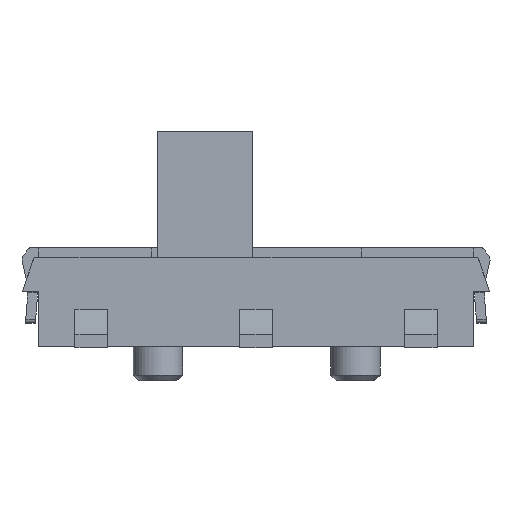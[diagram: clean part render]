
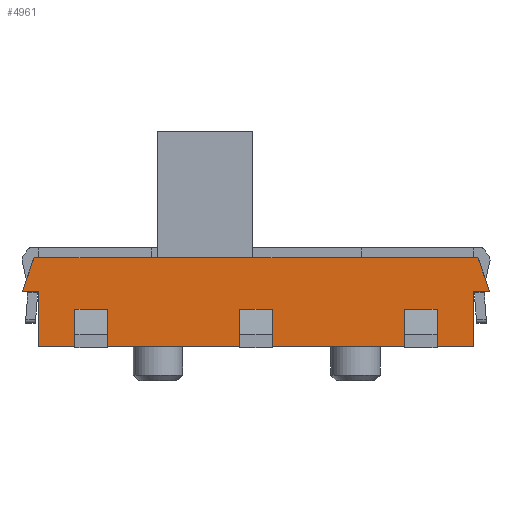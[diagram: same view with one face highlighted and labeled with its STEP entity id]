
A CAD part, front view. The second image highlights one B-rep face of the part: STEP entity #4961.
In plain terms, the highlighted planar face has unit normal (0, -1, 0).
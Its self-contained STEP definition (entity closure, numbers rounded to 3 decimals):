
#954=ORIENTED_EDGE('',*,*,#1284,.F.);
#955=ORIENTED_EDGE('',*,*,#1271,.F.);
#956=ORIENTED_EDGE('',*,*,#1285,.F.);
#957=ORIENTED_EDGE('',*,*,#1269,.T.);
#958=ORIENTED_EDGE('',*,*,#1600,.F.);
#959=ORIENTED_EDGE('',*,*,#1601,.F.);
#960=ORIENTED_EDGE('',*,*,#1602,.T.);
#961=ORIENTED_EDGE('',*,*,#1603,.F.);
#962=ORIENTED_EDGE('',*,*,#1599,.T.);
#963=ORIENTED_EDGE('',*,*,#1166,.T.);
#964=ORIENTED_EDGE('',*,*,#1159,.T.);
#965=ORIENTED_EDGE('',*,*,#1168,.T.);
#966=ORIENTED_EDGE('',*,*,#1598,.T.);
#967=ORIENTED_EDGE('',*,*,#1596,.T.);
#968=ORIENTED_EDGE('',*,*,#1594,.T.);
#969=ORIENTED_EDGE('',*,*,#1591,.T.);
#970=ORIENTED_EDGE('',*,*,#1589,.T.);
#971=ORIENTED_EDGE('',*,*,#1587,.T.);
#972=ORIENTED_EDGE('',*,*,#1585,.T.);
#973=ORIENTED_EDGE('',*,*,#1583,.T.);
#974=ORIENTED_EDGE('',*,*,#1580,.F.);
#975=ORIENTED_EDGE('',*,*,#1579,.T.);
#976=ORIENTED_EDGE('',*,*,#1576,.T.);
#977=ORIENTED_EDGE('',*,*,#1574,.F.);
#1159=EDGE_CURVE('',#1674,#1677,#2013,.T.);
#1166=EDGE_CURVE('',#1684,#1674,#2020,.T.);
#1168=EDGE_CURVE('',#1677,#1685,#2022,.T.);
#1269=EDGE_CURVE('',#1767,#1773,#2115,.T.);
#1271=EDGE_CURVE('',#1775,#1776,#2117,.T.);
#1284=EDGE_CURVE('',#1776,#1773,#2130,.T.);
#1285=EDGE_CURVE('',#1767,#1775,#2131,.T.);
#1574=EDGE_CURVE('',#1958,#1959,#2370,.T.);
#1576=EDGE_CURVE('',#1960,#1959,#2372,.T.);
#1579=EDGE_CURVE('',#1961,#1960,#2375,.T.);
#1580=EDGE_CURVE('',#1961,#1958,#2376,.T.);
#1583=EDGE_CURVE('',#1963,#1962,#2379,.T.);
#1585=EDGE_CURVE('',#1964,#1963,#2381,.T.);
#1587=EDGE_CURVE('',#1965,#1964,#2383,.T.);
#1589=EDGE_CURVE('',#1966,#1965,#2385,.T.);
#1591=EDGE_CURVE('',#1967,#1966,#2387,.T.);
#1594=EDGE_CURVE('',#1968,#1967,#2390,.T.);
#1596=EDGE_CURVE('',#1969,#1968,#2392,.T.);
#1598=EDGE_CURVE('',#1685,#1969,#2394,.T.);
#1599=EDGE_CURVE('',#1962,#1684,#2395,.T.);
#1600=EDGE_CURVE('',#1970,#1971,#2396,.T.);
#1601=EDGE_CURVE('',#1972,#1970,#2397,.T.);
#1602=EDGE_CURVE('',#1972,#1973,#2398,.T.);
#1603=EDGE_CURVE('',#1971,#1973,#2399,.T.);
#1674=VERTEX_POINT('',#6230);
#1677=VERTEX_POINT('',#6235);
#1684=VERTEX_POINT('',#6251);
#1685=VERTEX_POINT('',#6255);
#1767=VERTEX_POINT('',#6445);
#1773=VERTEX_POINT('',#6457);
#1775=VERTEX_POINT('',#6462);
#1776=VERTEX_POINT('',#6464);
#1958=VERTEX_POINT('',#7069);
#1959=VERTEX_POINT('',#7071);
#1960=VERTEX_POINT('',#7075);
#1961=VERTEX_POINT('',#7079);
#1962=VERTEX_POINT('',#7086);
#1963=VERTEX_POINT('',#7088);
#1964=VERTEX_POINT('',#7092);
#1965=VERTEX_POINT('',#7096);
#1966=VERTEX_POINT('',#7100);
#1967=VERTEX_POINT('',#7104);
#1968=VERTEX_POINT('',#7109);
#1969=VERTEX_POINT('',#7113);
#1970=VERTEX_POINT('',#7121);
#1971=VERTEX_POINT('',#7122);
#1972=VERTEX_POINT('',#7124);
#1973=VERTEX_POINT('',#7126);
#2013=LINE('',#6236,#2465);
#2020=LINE('',#6250,#2472);
#2022=LINE('',#6254,#2474);
#2115=LINE('',#6458,#2567);
#2117=LINE('',#6463,#2569);
#2130=LINE('',#6488,#2582);
#2131=LINE('',#6490,#2583);
#2370=LINE('',#7070,#2822);
#2372=LINE('',#7074,#2824);
#2375=LINE('',#7080,#2827);
#2376=LINE('',#7082,#2828);
#2379=LINE('',#7087,#2831);
#2381=LINE('',#7091,#2833);
#2383=LINE('',#7095,#2835);
#2385=LINE('',#7099,#2837);
#2387=LINE('',#7103,#2839);
#2390=LINE('',#7108,#2842);
#2392=LINE('',#7112,#2844);
#2394=LINE('',#7116,#2846);
#2395=LINE('',#7118,#2847);
#2396=LINE('',#7120,#2848);
#2397=LINE('',#7123,#2849);
#2398=LINE('',#7125,#2850);
#2399=LINE('',#7127,#2851);
#2465=VECTOR('',#5268,1000.);
#2472=VECTOR('',#5277,1000.);
#2474=VECTOR('',#5281,1000.);
#2567=VECTOR('',#5418,1000.);
#2569=VECTOR('',#5422,1000.);
#2582=VECTOR('',#5447,1000.);
#2583=VECTOR('',#5450,1000.);
#2822=VECTOR('',#6017,1000.);
#2824=VECTOR('',#6021,1000.);
#2827=VECTOR('',#6026,1000.);
#2828=VECTOR('',#6029,1000.);
#2831=VECTOR('',#6034,1000.);
#2833=VECTOR('',#6038,1000.);
#2835=VECTOR('',#6042,1000.);
#2837=VECTOR('',#6046,1000.);
#2839=VECTOR('',#6050,1000.);
#2842=VECTOR('',#6055,1000.);
#2844=VECTOR('',#6059,1000.);
#2846=VECTOR('',#6063,1000.);
#2847=VECTOR('',#6066,1000.);
#2848=VECTOR('',#6069,1000.);
#2849=VECTOR('',#6070,1000.);
#2850=VECTOR('',#6071,1000.);
#2851=VECTOR('',#6072,1000.);
#3076=EDGE_LOOP('',(#954,#955,#956,#957));
#3077=EDGE_LOOP('',(#958,#959,#960,#961));
#3078=EDGE_LOOP('',(#962,#963,#964,#965,#966,#967,#968,#969,#970,#971,#972,
#973));
#3079=EDGE_LOOP('',(#974,#975,#976,#977));
#3280=FACE_BOUND('',#3076,.T.);
#3281=FACE_BOUND('',#3077,.T.);
#3282=FACE_BOUND('',#3078,.T.);
#3283=FACE_BOUND('',#3079,.T.);
#3447=PLANE('',#5214);
#4961=ADVANCED_FACE('',(#3280,#3281,#3282,#3283),#3447,.T.);
#5214=AXIS2_PLACEMENT_3D('',#7119,#6067,#6068);
#5268=DIRECTION('',(-1.,0.,0.));
#5277=DIRECTION('',(-1.,0.,0.));
#5281=DIRECTION('',(-1.,0.,0.));
#5418=DIRECTION('',(0.,0.,-1.));
#5422=DIRECTION('',(0.,0.,-1.));
#5447=DIRECTION('',(1.,0.,0.));
#5450=DIRECTION('',(-1.,0.,0.));
#6017=DIRECTION('',(0.,0.,-1.));
#6021=DIRECTION('',(-1.,0.,0.));
#6026=DIRECTION('',(0.,0.,-1.));
#6029=DIRECTION('',(-1.,0.,0.));
#6034=DIRECTION('',(-0.329,0.,0.944));
#6038=DIRECTION('',(1.,0.,0.));
#6042=DIRECTION('',(0.,0.,1.));
#6046=DIRECTION('',(1.,0.,0.));
#6050=DIRECTION('',(0.,0.,-1.));
#6055=DIRECTION('',(1.,0.,0.));
#6059=DIRECTION('',(-0.329,0.,-0.944));
#6063=DIRECTION('',(-1.,0.,0.));
#6066=DIRECTION('',(-1.,0.,0.));
#6067=DIRECTION('',(0.,-1.,0.));
#6068=DIRECTION('',(0.,0.,-1.));
#6069=DIRECTION('',(0.,0.,-1.));
#6070=DIRECTION('',(-1.,0.,0.));
#6071=DIRECTION('',(0.,0.,-1.));
#6072=DIRECTION('',(1.,0.,0.));
#6230=CARTESIAN_POINT('',(1.598,-1.727,1.35));
#6235=CARTESIAN_POINT('',(-1.585,-1.727,1.35));
#6236=CARTESIAN_POINT('',(-3.369,-1.727,1.35));
#6250=CARTESIAN_POINT('',(-3.369,-1.727,1.35));
#6251=CARTESIAN_POINT('',(3.3,-1.727,1.35));
#6254=CARTESIAN_POINT('',(-3.369,-1.727,1.35));
#6255=CARTESIAN_POINT('',(-3.3,-1.727,1.35));
#6445=CARTESIAN_POINT('',(-2.25,-1.727,0.568));
#6457=CARTESIAN_POINT('',(-2.25,-1.727,0.351));
#6458=CARTESIAN_POINT('',(-2.25,-1.727,0.));
#6462=CARTESIAN_POINT('',(-2.75,-1.727,0.568));
#6463=CARTESIAN_POINT('',(-2.75,-1.727,0.));
#6464=CARTESIAN_POINT('',(-2.75,-1.727,0.351));
#6488=CARTESIAN_POINT('',(-5.,-1.727,0.351));
#6490=CARTESIAN_POINT('',(0.,-1.727,0.568));
#7069=CARTESIAN_POINT('',(-0.25,-1.727,0.568));
#7070=CARTESIAN_POINT('',(-0.25,-1.727,0.568));
#7071=CARTESIAN_POINT('',(-0.25,-1.727,0.351));
#7074=CARTESIAN_POINT('',(0.25,-1.727,0.351));
#7075=CARTESIAN_POINT('',(0.25,-1.727,0.351));
#7079=CARTESIAN_POINT('',(0.25,-1.727,0.568));
#7080=CARTESIAN_POINT('',(0.25,-1.727,0.568));
#7082=CARTESIAN_POINT('',(0.25,-1.727,0.568));
#7086=CARTESIAN_POINT('',(3.369,-1.727,1.35));
#7087=CARTESIAN_POINT('',(3.369,-1.727,1.35));
#7088=CARTESIAN_POINT('',(3.548,-1.727,0.836));
#7091=CARTESIAN_POINT('',(3.548,-1.727,0.836));
#7092=CARTESIAN_POINT('',(3.3,-1.727,0.836));
#7095=CARTESIAN_POINT('',(3.3,-1.727,0.836));
#7096=CARTESIAN_POINT('',(3.3,-1.727,0.));
#7099=CARTESIAN_POINT('',(-3.3,-1.727,0.));
#7100=CARTESIAN_POINT('',(-3.3,-1.727,0.));
#7103=CARTESIAN_POINT('',(-3.3,-1.727,0.836));
#7104=CARTESIAN_POINT('',(-3.3,-1.727,0.836));
#7108=CARTESIAN_POINT('',(-3.548,-1.727,0.836));
#7109=CARTESIAN_POINT('',(-3.548,-1.727,0.836));
#7112=CARTESIAN_POINT('',(-3.369,-1.727,1.35));
#7113=CARTESIAN_POINT('',(-3.369,-1.727,1.35));
#7116=CARTESIAN_POINT('',(-3.369,-1.727,1.35));
#7118=CARTESIAN_POINT('',(-3.369,-1.727,1.35));
#7119=CARTESIAN_POINT('',(0.,-1.727,0.));
#7120=CARTESIAN_POINT('',(2.25,-1.727,0.568));
#7121=CARTESIAN_POINT('',(2.25,-1.727,0.568));
#7122=CARTESIAN_POINT('',(2.25,-1.727,0.351));
#7123=CARTESIAN_POINT('',(0.,-1.727,0.568));
#7124=CARTESIAN_POINT('',(2.75,-1.727,0.568));
#7125=CARTESIAN_POINT('',(2.75,-1.727,0.));
#7126=CARTESIAN_POINT('',(2.75,-1.727,0.351));
#7127=CARTESIAN_POINT('',(0.,-1.727,0.351));
